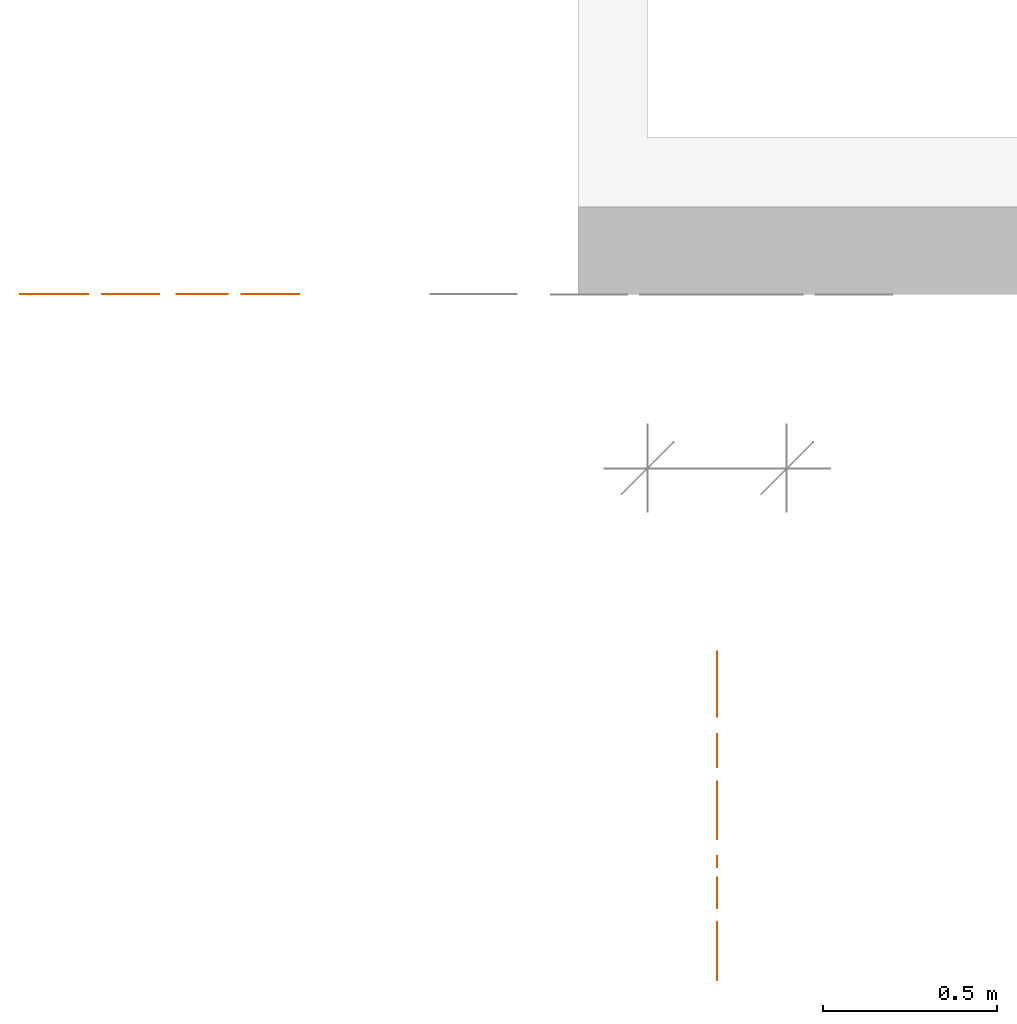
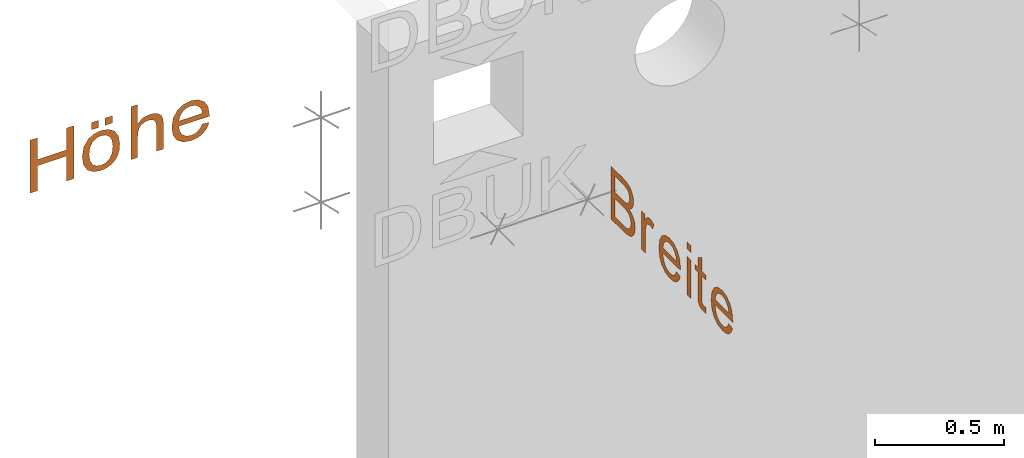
# One storey, part 3 of 3: 2 proxies, 2 elements without a shape of their own.
"""IFC4 building model written with IfcOpenShell, lengths in metres."""

import ifcopenshell
import ifcopenshell.guid

model = None  # the IFC model being written
_history = None  # IfcOwnerHistory: only IFC2X3 demands one
_inside = {}  # id of a spatial element -> (the spatial element, [elements in it])
_under = {}  # id of a project, library or spatial element -> (it, [spatial elements below it])
_declared = {}  # id of a project -> (the project, [libraries it declares])
_typed = {}  # id of a type object -> (the type object, [elements of that type])
_made_of = {}  # id of a material, layer set ... -> (it, [elements and type objects made of it])


def new_model(schema):
    """Start an empty IFC model of exactly this schema.

    Asked for "IFC4X3", IfcOpenShell would pick the latest addendum, in which some entities
    have other attributes; the version numbers below select the first issue.
    IFC2X3 requires an IfcOwnerHistory on every rooted entity: one is made here for all.
    """
    global model, _history
    if schema == "IFC4X3":
        model = ifcopenshell.file(schema_version=(4, 3, 0, 0))
    else:
        model = ifcopenshell.file(schema=schema)
    _inside.clear()
    _under.clear()
    _declared.clear()
    _typed.clear()
    _made_of.clear()
    _history = None
    if model.schema == "IFC2X3":
        org = make("IfcOrganization", Name="unknown")
        user = make(
            "IfcPersonAndOrganization",
            ThePerson=make("IfcPerson", FamilyName="unknown"),
            TheOrganization=org,
        )
        app = make(
            "IfcApplication",
            ApplicationDeveloper=org,
            Version="unknown",
            ApplicationFullName="unknown",
            ApplicationIdentifier="unknown",
        )
        _history = make(
            "IfcOwnerHistory",
            OwningUser=user,
            OwningApplication=app,
            ChangeAction="ADDED",
            CreationDate=0,
        )
    return model


def make(cls, **values):
    """One entity of the class cls with the attributes given. An attribute that is None is left unset."""
    return model.create_entity(
        cls, **{name: value for name, value in values.items() if value is not None}
    )


def entity(cls, *values):
    """Any entity or typed value of the class cls, its attributes in the order of the schema. None: left unset."""
    e = model.create_entity(cls)
    for i, value in enumerate(values):
        if value is not None:
            e[i] = value
    return e


def rooted(cls, **values):
    """An entity with a GlobalId (a new one), such as an element, a storey or a relation."""
    return make(cls, GlobalId=ifcopenshell.guid.new(), OwnerHistory=_history, **values)


def si_unit(unit_type, name, prefix=None):
    """IfcSIUnit, for example si_unit("LENGTHUNIT", "METRE", prefix="MILLI")."""
    return make("IfcSIUnit", UnitType=unit_type, Prefix=prefix, Name=name)


def converted_unit(unit_type, name, factor, base, dimensions=None, offset=None):
    """IfcConversionBasedUnit, such as the inch: factor (a typed value) times the base unit."""
    return make(
        "IfcConversionBasedUnit"
        if offset is None
        else "IfcConversionBasedUnitWithOffset",
        ConversionOffset=offset,
        Dimensions=None
        if dimensions is None
        else entity("IfcDimensionalExponents", *dimensions),
        UnitType=unit_type,
        Name=name,
        ConversionFactor=make(
            "IfcMeasureWithUnit", ValueComponent=factor, UnitComponent=base
        ),
    )


def derived_unit(unit_type, elements):
    """IfcDerivedUnit: a product of units, each with its exponent."""
    return make(
        "IfcDerivedUnit",
        Elements=[
            make("IfcDerivedUnitElement", Unit=unit, Exponent=power)
            for unit, power in elements
        ],
        UnitType=unit_type,
    )


def assignment(units):
    """IfcUnitAssignment: the units of a project."""
    return None if units is None else make("IfcUnitAssignment", Units=units)


def point(xyz):
    """IfcCartesianPoint."""
    return None if xyz is None else make("IfcCartesianPoint", Coordinates=xyz)


def direction(xyz):
    """IfcDirection."""
    return None if xyz is None else make("IfcDirection", DirectionRatios=xyz)


def frame(location, z_axis=None, x_axis=None):
    """IfcAxis2Placement3D, a coordinate frame: its origin and axes. An axis left out is left unset."""
    return make(
        "IfcAxis2Placement3D",
        Location=point(location),
        Axis=direction(z_axis),
        RefDirection=direction(x_axis),
    )


def origin():
    """The frame at (0, 0, 0) with its axes left unset."""
    return frame((0.0, 0.0, 0.0))


def origin_with_axes():
    """The frame at (0, 0, 0) with the z axis (0, 0, 1) and the x axis (1, 0, 0) written out."""
    return frame((0.0, 0.0, 0.0), z_axis=(0.0, 0.0, 1.0), x_axis=(1.0, 0.0, 0.0))


def place(relative_to, where):
    """IfcLocalPlacement: puts the frame where relative to a parent placement (None: the world)."""
    return make(
        "IfcLocalPlacement", PlacementRelTo=relative_to, RelativePlacement=where
    )


def context(
    kind, dimensions, precision=None, world=None, true_north=None, identifier=None
):
    """IfcGeometricRepresentationContext, for example the 3D "Model" context."""
    return make(
        "IfcGeometricRepresentationContext",
        ContextIdentifier=identifier,
        ContextType=kind,
        CoordinateSpaceDimension=dimensions,
        Precision=precision,
        WorldCoordinateSystem=world,
        TrueNorth=true_north,
    )


def subcontext(parent, identifier, kind, view, scale=None):
    """IfcGeometricRepresentationSubContext, for example "Body" below "Model"."""
    return make(
        "IfcGeometricRepresentationSubContext",
        ContextIdentifier=identifier,
        ContextType=kind,
        ParentContext=parent,
        TargetScale=scale,
        TargetView=view,
    )


def project(units=None, contexts=None):
    """IfcProject with its units and contexts."""
    return rooted(
        "IfcProject",
        Name="project",
        RepresentationContexts=contexts,
        UnitsInContext=assignment(units),
    )


def spatial(cls, under=None, at=None, **own):
    """A site, building, storey or space (cls), placed at a placement, below another one or the project."""
    s = rooted(cls, ObjectPlacement=at, **own)
    if under is not None:
        _under.setdefault(under.id(), (under, []))[1].append(s)
    return s


def faces_of(points, faces, orient=None, outer=None):
    """IfcFace entities. A face is a list of loops; a loop is a list of indices into points, from 0.

    orient and outer hold one flag for each loop. By default every Orientation is true, the
    first loop of a face is its IfcFaceOuterBound and the others are IfcFaceBound.
    """
    made = []
    for i, loops in enumerate(faces):
        bounds = []
        for j, loop in enumerate(loops):
            is_outer = j == 0 if outer is None else outer[i][j]
            bounds.append(
                make(
                    "IfcFaceOuterBound" if is_outer else "IfcFaceBound",
                    Bound=make("IfcPolyLoop", Polygon=[points[k] for k in loop]),
                    Orientation=True if orient is None else orient[i][j],
                )
            )
        made.append(make("IfcFace", Bounds=bounds))
    return made


def open_shell(faces, orient=None, outer=None):
    """The faces of one IfcOpenShell. surface_model builds it on its shared points."""
    return ("IfcOpenShell", faces, orient, outer)


def surface_model(cls, points, shells):
    """IfcFaceBasedSurfaceModel or IfcShellBasedSurfaceModel (cls): surfaces that need not close."""
    shared = [point(p) for p in points]
    made = [make(c, CfsFaces=faces_of(shared, fs, o, b)) for c, fs, o, b in shells]
    if cls == "IfcFaceBasedSurfaceModel":
        return make(cls, FbsmFaces=made)
    return make(cls, SbsmBoundary=made)


def shape(context_of_items, identifier, shape_type, items):
    """IfcShapeRepresentation: the items that make up one representation, for example the "Body"."""
    return make(
        "IfcShapeRepresentation",
        ContextOfItems=context_of_items,
        RepresentationIdentifier=identifier,
        RepresentationType=shape_type,
        Items=items,
    )


def source(mapping_origin, context_of_items, identifier, shape_type, items):
    """IfcRepresentationMap: a shape defined once, which mapped items show again and again."""
    return make(
        "IfcRepresentationMap",
        MappingOrigin=mapping_origin,
        MappedRepresentation=shape(context_of_items, identifier, shape_type, items),
    )


def transform(
    local_origin,
    x_axis=None,
    y_axis=None,
    z_axis=None,
    scale=None,
    scale2=None,
    scale3=None,
    uniform=True,
):
    """IfcCartesianTransformationOperator3D, or its non-uniform kind. x_axis, y_axis, z_axis: its Axis1, 2, 3."""
    if uniform:
        return make(
            "IfcCartesianTransformationOperator3D",
            Axis1=direction(x_axis),
            Axis2=direction(y_axis),
            LocalOrigin=point(local_origin),
            Scale=scale,
            Axis3=direction(z_axis),
        )
    return make(
        "IfcCartesianTransformationOperator3DnonUniform",
        Axis1=direction(x_axis),
        Axis2=direction(y_axis),
        LocalOrigin=point(local_origin),
        Scale=scale,
        Axis3=direction(z_axis),
        Scale2=scale2,
        Scale3=scale3,
    )


def mapped(mapping_source, mapping_target):
    """IfcMappedItem: shows the shape of a source again, moved by a transform."""
    return make(
        "IfcMappedItem", MappingSource=mapping_source, MappingTarget=mapping_target
    )


def made_of(thing, what):
    """Note that an element or type object is made of a material, layer set ...; save() writes the relation."""
    if what is not None:
        _made_of.setdefault(what.id(), (what, []))[1].append(thing)
    return thing


def element(
    cls,
    number,
    at=None,
    inside=None,
    cuts=None,
    type_object=None,
    material=None,
    context=None,
    identifier="Body",
    shape_type=None,
    held_by="IfcProductDefinitionShape",
    body=None,
    shapes=None,
    **own,
):
    """One element of the class cls, such as IfcWall. Its Tag is "e" and its number.

    at: its placement. inside: the storey or other place that contains it. cuts: it is an
    opening in that element (IfcRelVoidsElement). A single representation is given by context,
    identifier, shape_type and body (its items); several are given by shapes. held_by: the class
    of the entity that holds the representations. save() writes the other relations.
    """
    e = rooted(cls, Tag="e%d" % number, ObjectPlacement=at, **own)
    if body is not None:
        shapes = [shape(context, identifier, shape_type, body)]
    if shapes is not None:
        e.Representation = make(held_by, Representations=shapes)
    if inside is not None:
        _inside.setdefault(inside.id(), (inside, []))[1].append(e)
    if cuts is not None:
        rooted(
            "IfcRelVoidsElement", RelatingBuildingElement=cuts, RelatedOpeningElement=e
        )
    if type_object is not None:
        _typed.setdefault(type_object.id(), (type_object, []))[1].append(e)
    return made_of(e, material)


def aggregate(whole, parts):
    """IfcRelAggregates: a whole, such as a stair, and the parts it consists of."""
    return rooted("IfcRelAggregates", RelatingObject=whole, RelatedObjects=parts)


def save(model, path):
    """Write the relations noted so far, then the file.

    IfcRelAggregates (storeys below a building ...), IfcRelContainedInSpatialStructure (elements
    in a storey), IfcRelDefinesByType, IfcRelAssociatesMaterial and IfcRelDeclares: one each for
    every whole, place, type object, material and project.
    """
    for whole, parts in _under.values():
        aggregate(whole, parts)
    for where, things in _inside.values():
        rooted(
            "IfcRelContainedInSpatialStructure",
            RelatedElements=things,
            RelatingStructure=where,
        )
    for kind, things in _typed.values():
        rooted("IfcRelDefinesByType", RelatedObjects=things, RelatingType=kind)
    for what, things in _made_of.values():
        rooted("IfcRelAssociatesMaterial", RelatedObjects=things, RelatingMaterial=what)
    for by, libraries in _declared.values():
        rooted("IfcRelDeclares", RelatingContext=by, RelatedDefinitions=libraries)
    model.write(path)


model = new_model("IFC4")

# Units and contexts
model_context = context("Model", 3, precision=1e-05, world=origin())
body_context = subcontext(model_context, "Body", "Model", "MODEL_VIEW")
ifc_project = project(units=[si_unit("LENGTHUNIT", "METRE"), si_unit("AREAUNIT", "SQUARE_METRE"), si_unit("VOLUMEUNIT", "CUBIC_METRE"), si_unit("MASSUNIT", "GRAM", prefix="KILO"), converted_unit("PLANEANGLEUNIT", "DEGREE", entity("IfcPlaneAngleMeasure", 0.0174532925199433), si_unit("PLANEANGLEUNIT", "RADIAN"), dimensions=[0, 0, 0, 0, 0, 0, 0]), derived_unit("THERMALTRANSMITTANCEUNIT", [(si_unit("POWERUNIT", "WATT"), 1), (si_unit("THERMODYNAMICTEMPERATUREUNIT", "KELVIN"), -1), (si_unit("LENGTHUNIT", "METRE"), -2)]), derived_unit("VOLUMETRICFLOWRATEUNIT", [(si_unit("LENGTHUNIT", "METRE"), 3), (converted_unit("TIMEUNIT", "hour", entity("IfcTimeMeasure", 3600.0), si_unit("TIMEUNIT", "SECOND"), dimensions=[0, 0, 1, 0, 0, 0, 0]), -1), (si_unit("LENGTHUNIT", "METRE"), -1)])], contexts=[model_context])

# Site, building, storey
site_placement = place(None, origin())
site = spatial("IfcSite", under=ifc_project, at=site_placement, Name="Liegenschaft", CompositionType="ELEMENT")
building_placement = place(site_placement, origin())
building = spatial("IfcBuilding", under=site, at=building_placement, Name="Gebäude", CompositionType="ELEMENT")
storey_placement = place(building_placement, origin())
storey = spatial("IfcBuildingStorey", under=building, at=storey_placement, Name="Geschoss 01", CompositionType="ELEMENT", Elevation=0.0)

# Assembly, proxy
assembly_1_placement = place(storey_placement, origin())
assembly_1 = element("IfcElementAssembly", 1, at=assembly_1_placement, inside=storey, Name="SpatialDim_Group", PredefinedType="NOTDEFINED")
shared_shape_1 = source(origin_with_axes(), body_context, "Body", "SurfaceModel", [
    surface_model("IfcShellBasedSurfaceModel", [(0.298675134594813, 0.942, 0.0), (0.298675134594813, 0.847, 0.0), (0.299925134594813, 0.82475, 0.0), (0.302675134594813, 0.807, 0.0), (0.307925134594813, 0.792, 0.0), (0.314675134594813, 0.78, 0.0), (0.325175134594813, 0.769375, 0.0), (0.338675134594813, 0.761, 0.0), (0.354300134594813, 0.755625, 0.0), (0.370675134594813, 0.754, 0.0), (0.391050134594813, 0.757, 0.0), (0.407675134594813, 0.766, 0.0), (0.421800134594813, 0.781625, 0.0), (0.430675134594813, 0.801, 0.0), (0.441050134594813, 0.78575, 0.0), (0.453675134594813, 0.775, 0.0), (0.468800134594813, 0.76825, 0.0), (0.484675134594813, 0.766, 0.0), (0.501925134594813, 0.76875, 0.0), (0.517675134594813, 0.776, 0.0), (0.531800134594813, 0.788, 0.0), (0.540675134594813, 0.803, 0.0), (0.546925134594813, 0.823375, 0.0), (0.548675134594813, 0.849, 0.0), (0.548675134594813, 0.942, 0.0), (0.443425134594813, 0.836875, 0.0), (0.442675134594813, 0.855, 0.0), (0.442675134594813, 0.909, 0.0), (0.519675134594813, 0.909, 0.0), (0.519675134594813, 0.859, 0.0), (0.518425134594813, 0.836375, 0.0), (0.515675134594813, 0.822, 0.0), (0.510675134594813, 0.812, 0.0), (0.502675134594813, 0.805, 0.0), (0.492425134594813, 0.8005, 0.0), (0.480675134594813, 0.799, 0.0), (0.468550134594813, 0.8005, 0.0), (0.458675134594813, 0.805, 0.0), (0.450675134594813, 0.813375, 0.0), (0.445675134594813, 0.824, 0.0), (0.327800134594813, 0.83375, 0.0), (0.327675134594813, 0.847, 0.0), (0.327675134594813, 0.909, 0.0), (0.413675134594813, 0.909, 0.0), (0.413675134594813, 0.852, 0.0), (0.412425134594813, 0.8305, 0.0), (0.409675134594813, 0.815, 0.0), (0.403675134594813, 0.803875, 0.0), (0.394675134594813, 0.795, 0.0), (0.383425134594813, 0.789625, 0.0), (0.370675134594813, 0.788, 0.0), (0.359425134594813, 0.789375, 0.0), (0.349675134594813, 0.793, 0.0), (0.341550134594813, 0.799125, 0.0), (0.335675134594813, 0.806, 0.0), (0.331050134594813, 0.814375, 0.0), (0.328675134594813, 0.825, 0.0)], [open_shell([[[0, 1, 2, 3, 4, 5, 6, 7, 8, 9, 10, 11, 12, 13, 14, 15, 16, 17, 18, 19, 20, 21, 22, 23, 24], [25, 26, 27, 28, 29, 30, 31, 32, 33, 34, 35, 36, 37, 38, 39], [40, 41, 42, 43, 44, 45, 46, 47, 48, 49, 50, 51, 52, 53, 54, 55, 56]]], orient=[[False, False, False]])]),
    surface_model("IfcShellBasedSurfaceModel", [(0.298675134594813, 0.706, 0.0), (0.298675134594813, 0.675, 0.0), (0.393675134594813, 0.675, 0.0), (0.412300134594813, 0.673625, 0.0), (0.428675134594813, 0.67, 0.0), (0.438675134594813, 0.665625, 0.0), (0.445675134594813, 0.659, 0.0), (0.450175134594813, 0.65, 0.0), (0.451675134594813, 0.641, 0.0), (0.450175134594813, 0.62975, 0.0), (0.445675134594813, 0.62, 0.0), (0.473675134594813, 0.609, 0.0), (0.481300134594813, 0.624875, 0.0), (0.483675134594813, 0.64, 0.0), (0.482175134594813, 0.65075, 0.0), (0.477675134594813, 0.66, 0.0), (0.468050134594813, 0.6695, 0.0), (0.451675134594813, 0.679, 0.0), (0.479675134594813, 0.679, 0.0), (0.479675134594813, 0.706, 0.0)], [open_shell([[[0, 1, 2, 3, 4, 5, 6, 7, 8, 9, 10, 11, 12, 13, 14, 15, 16, 17, 18, 19]]], orient=[[False]])]),
    surface_model("IfcShellBasedSurfaceModel", [(0.356675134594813, 0.436, 0.0), (0.340050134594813, 0.444875, 0.0), (0.328675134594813, 0.456, 0.0), (0.321925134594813, 0.469375, 0.0), (0.319675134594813, 0.485, 0.0), (0.323925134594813, 0.50675, 0.0), (0.335675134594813, 0.524, 0.0), (0.355300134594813, 0.535875, 0.0), (0.381675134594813, 0.541, 0.0), (0.381675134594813, 0.404, 0.0), (0.386425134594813, 0.404, 0.0), (0.389675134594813, 0.404, 0.0), (0.429425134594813, 0.409875, 0.0), (0.458675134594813, 0.427, 0.0), (0.477550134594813, 0.454, 0.0), (0.483675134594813, 0.487, 0.0), (0.477175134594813, 0.521625, 0.0), (0.458675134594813, 0.548, 0.0), (0.428050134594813, 0.566, 0.0), (0.387675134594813, 0.572, 0.0), (0.347925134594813, 0.566125, 0.0), (0.318675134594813, 0.549, 0.0), (0.300675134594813, 0.52075, 0.0), (0.294675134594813, 0.485, 0.0), (0.298425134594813, 0.455625, 0.0), (0.309675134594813, 0.433, 0.0), (0.328175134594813, 0.415625, 0.0), (0.352675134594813, 0.405, 0.0), (0.426300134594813, 0.43975, 0.0), (0.406675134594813, 0.436, 0.0), (0.406675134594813, 0.54, 0.0), (0.428300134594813, 0.534625, 0.0), (0.444675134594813, 0.524, 0.0), (0.455425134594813, 0.507, 0.0), (0.458675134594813, 0.487, 0.0), (0.454175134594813, 0.46525, 0.0), (0.440675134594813, 0.448, 0.0)], [open_shell([[[0, 1, 2, 3, 4, 5, 6, 7, 8, 9, 10, 11, 12, 13, 14, 15, 16, 17, 18, 19, 20, 21, 22, 23, 24, 25, 26, 27], [28, 29, 30, 31, 32, 33, 34, 35, 36]]], orient=[[False, False]])]),
    surface_model("IfcShellBasedSurfaceModel", [(0.298675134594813, 0.355, 0.0), (0.298675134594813, 0.324, 0.0), (0.479675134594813, 0.324, 0.0), (0.479675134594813, 0.355, 0.0), (0.514675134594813, 0.355, 0.0), (0.514675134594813, 0.324, 0.0), (0.548675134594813, 0.324, 0.0), (0.548675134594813, 0.355, 0.0)], [open_shell([[[0, 1, 2, 3]], [[4, 5, 6, 7]]], orient=[[False], [False]])]),
    surface_model("IfcShellBasedSurfaceModel", [(0.326675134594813, 0.209, 0.0), (0.325800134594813, 0.21675, 0.0), (0.325675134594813, 0.223, 0.0), (0.326300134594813, 0.22875, 0.0), (0.327675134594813, 0.233, 0.0), (0.330675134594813, 0.236625, 0.0), (0.333675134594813, 0.238, 0.0), (0.340300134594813, 0.23975, 0.0), (0.350675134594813, 0.24, 0.0), (0.455675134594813, 0.24, 0.0), (0.455675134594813, 0.209, 0.0), (0.479675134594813, 0.209, 0.0), (0.479675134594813, 0.24, 0.0), (0.542675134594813, 0.24, 0.0), (0.524675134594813, 0.271, 0.0), (0.479675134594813, 0.271, 0.0), (0.479675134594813, 0.294, 0.0), (0.455675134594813, 0.294, 0.0), (0.455675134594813, 0.271, 0.0), (0.351675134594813, 0.271, 0.0), (0.329175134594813, 0.26975, 0.0), (0.315675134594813, 0.267, 0.0), (0.307925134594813, 0.261625, 0.0), (0.301675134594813, 0.254, 0.0), (0.297675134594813, 0.242875, 0.0), (0.296675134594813, 0.228, 0.0), (0.297425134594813, 0.216875, 0.0), (0.299675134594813, 0.205, 0.0)], [open_shell([[[0, 1, 2, 3, 4, 5, 6, 7, 8, 9, 10, 11, 12, 13, 14, 15, 16, 17, 18, 19, 20, 21, 22, 23, 24, 25, 26, 27]]], orient=[[False]])]),
    surface_model("IfcShellBasedSurfaceModel", [(0.356675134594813, 0.032, 0.0), (0.340050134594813, 0.040875, 0.0), (0.328675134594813, 0.052, 0.0), (0.321925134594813, 0.065375, 0.0), (0.319675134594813, 0.081, 0.0), (0.323925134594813, 0.10275, 0.0), (0.335675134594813, 0.12, 0.0), (0.355300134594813, 0.131875, 0.0), (0.381675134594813, 0.137, 0.0), (0.381675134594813, 0.0, 0.0), (0.386425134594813, 0.0, 0.0), (0.389675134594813, 0.0, 0.0), (0.429425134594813, 0.005875, 0.0), (0.458675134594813, 0.023, 0.0), (0.477550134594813, 0.05, 0.0), (0.483675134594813, 0.083, 0.0), (0.477175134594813, 0.117625, 0.0), (0.458675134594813, 0.144, 0.0), (0.428050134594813, 0.162, 0.0), (0.387675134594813, 0.168, 0.0), (0.347925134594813, 0.162125, 0.0), (0.318675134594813, 0.145, 0.0), (0.300675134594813, 0.11675, 0.0), (0.294675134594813, 0.081, 0.0), (0.298425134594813, 0.051625, 0.0), (0.309675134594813, 0.029, 0.0), (0.328175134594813, 0.011625, 0.0), (0.352675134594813, 0.001, 0.0), (0.426300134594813, 0.03575, 0.0), (0.406675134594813, 0.032, 0.0), (0.406675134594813, 0.136, 0.0), (0.428300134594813, 0.130625, 0.0), (0.444675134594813, 0.12, 0.0), (0.455425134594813, 0.103, 0.0), (0.458675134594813, 0.083, 0.0), (0.454175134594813, 0.06125, 0.0), (0.440675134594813, 0.044, 0.0)], [open_shell([[[0, 1, 2, 3, 4, 5, 6, 7, 8, 9, 10, 11, 12, 13, 14, 15, 16, 17, 18, 19, 20, 21, 22, 23, 24, 25, 26, 27], [28, 29, 30, 31, 32, 33, 34, 35, 36]]], orient=[[False, False]])]),
])
proxy_1_placement = place(assembly_1_placement, frame((246.58, -1.968, 2.4), z_axis=(-1.0, 0.0, 1.22464679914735e-16), x_axis=(1.22464679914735e-16, 0.0, 1.0)))
proxy_1 = element("IfcBuildingElementProxy", 2, at=proxy_1_placement, Name="macro", context=body_context, shape_type="MappedRepresentation", body=[
    mapped(shared_shape_1, transform((0.0, 0.0, 0.0), x_axis=(1.0, 0.0, 0.0), y_axis=(0.0, 1.0, 0.0), z_axis=(0.0, 0.0, 1.0), scale=1.0)),
])
aggregate(assembly_1, [proxy_1])

assembly_2_placement = place(storey_placement, origin())
assembly_2 = element("IfcElementAssembly", 3, at=assembly_2_placement, inside=storey, Name="SpatialDim_Group", PredefinedType="NOTDEFINED")
shared_shape_2 = source(origin_with_axes(), body_context, "Body", "SurfaceModel", [
    surface_model("IfcShellBasedSurfaceModel", [(0.298675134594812, 1.301, 0.0), (0.298675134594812, 1.268, 0.0), (0.416675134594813, 1.268, 0.0), (0.416675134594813, 1.138, 0.0), (0.298675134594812, 1.138, 0.0), (0.298675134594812, 1.105, 0.0), (0.548675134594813, 1.105, 0.0), (0.548675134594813, 1.138, 0.0), (0.445675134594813, 1.138, 0.0), (0.445675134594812, 1.268, 0.0), (0.548675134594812, 1.268, 0.0), (0.548675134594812, 1.301, 0.0)], [open_shell([[[0, 1, 2, 3, 4, 5, 6, 7, 8, 9, 10, 11]]], orient=[[False]])]),
    surface_model("IfcShellBasedSurfaceModel", [(0.501675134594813, 0.965, 0.0), (0.501675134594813, 0.933, 0.0), (0.535675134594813, 0.933, 0.0), (0.535675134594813, 0.965, 0.0), (0.501675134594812, 1.027, 0.0), (0.501675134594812, 0.995, 0.0), (0.535675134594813, 0.995, 0.0), (0.535675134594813, 1.027, 0.0), (0.348550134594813, 1.062125, 0.0), (0.318675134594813, 1.045, 0.0), (0.300675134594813, 1.017875, 0.0), (0.294675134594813, 0.984, 0.0), (0.297550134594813, 0.961, 0.0), (0.305675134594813, 0.941, 0.0), (0.319300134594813, 0.922875, 0.0), (0.336675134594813, 0.91, 0.0), (0.360800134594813, 0.902375, 0.0), (0.391675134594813, 0.9, 0.0), (0.430550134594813, 0.905875, 0.0), (0.459675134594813, 0.923, 0.0), (0.477675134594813, 0.9505, 0.0), (0.483675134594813, 0.984, 0.0), (0.478550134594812, 1.014625, 0.0), (0.463675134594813, 1.04, 0.0), (0.433050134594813, 1.061125, 0.0), (0.389675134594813, 1.068, 0.0), (0.359050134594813, 1.03325, 0.0), (0.389675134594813, 1.037, 0.0), (0.419800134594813, 1.03325, 0.0), (0.441675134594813, 1.022, 0.0), (0.454675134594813, 1.004875, 0.0), (0.458675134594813, 0.984, 0.0), (0.454300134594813, 0.96275, 0.0), (0.441675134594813, 0.946, 0.0), (0.419925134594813, 0.93475, 0.0), (0.390675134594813, 0.931, 0.0), (0.359175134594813, 0.93475, 0.0), (0.336675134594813, 0.946, 0.0), (0.323675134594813, 0.963125, 0.0), (0.319675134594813, 0.984, 0.0), (0.324050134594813, 1.00525, 0.0), (0.336675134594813, 1.022, 0.0)], [open_shell([[[0, 1, 2, 3]], [[4, 5, 6, 7]], [[8, 9, 10, 11, 12, 13, 14, 15, 16, 17, 18, 19, 20, 21, 22, 23, 24, 25], [26, 27, 28, 29, 30, 31, 32, 33, 34, 35, 36, 37, 38, 39, 40, 41]]], orient=[[False], [False], [False, False]])]),
    surface_model("IfcShellBasedSurfaceModel", [(0.298675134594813, 0.851, 0.0), (0.298675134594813, 0.82, 0.0), (0.397675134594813, 0.82, 0.0), (0.417300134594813, 0.818625, 0.0), (0.431675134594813, 0.815, 0.0), (0.442675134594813, 0.808, 0.0), (0.450675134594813, 0.798, 0.0), (0.456050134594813, 0.785875, 0.0), (0.457675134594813, 0.773, 0.0), (0.454925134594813, 0.75725, 0.0), (0.447675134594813, 0.746, 0.0), (0.433300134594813, 0.738375, 0.0), (0.413675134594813, 0.736, 0.0), (0.298675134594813, 0.736, 0.0), (0.298675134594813, 0.705, 0.0), (0.413675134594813, 0.705, 0.0), (0.437050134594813, 0.7065, 0.0), (0.453675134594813, 0.711, 0.0), (0.466550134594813, 0.72, 0.0), (0.475675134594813, 0.732, 0.0), (0.481925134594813, 0.748375, 0.0), (0.483675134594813, 0.767, 0.0), (0.477675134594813, 0.7965, 0.0), (0.459675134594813, 0.82, 0.0), (0.548675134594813, 0.82, 0.0), (0.548675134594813, 0.851, 0.0)], [open_shell([[[0, 1, 2, 3, 4, 5, 6, 7, 8, 9, 10, 11, 12, 13, 14, 15, 16, 17, 18, 19, 20, 21, 22, 23, 24, 25]]], orient=[[False]])]),
    surface_model("IfcShellBasedSurfaceModel", [(0.356675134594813, 0.532, 0.0), (0.340050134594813, 0.540875, 0.0), (0.328675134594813, 0.552, 0.0), (0.321925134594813, 0.565375, 0.0), (0.319675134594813, 0.581, 0.0), (0.323925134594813, 0.60275, 0.0), (0.335675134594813, 0.62, 0.0), (0.355300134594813, 0.631875, 0.0), (0.381675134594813, 0.637, 0.0), (0.381675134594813, 0.5, 0.0), (0.386425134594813, 0.5, 0.0), (0.389675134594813, 0.5, 0.0), (0.429425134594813, 0.505875, 0.0), (0.458675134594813, 0.523, 0.0), (0.477550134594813, 0.55, 0.0), (0.483675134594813, 0.583, 0.0), (0.477175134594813, 0.617625, 0.0), (0.458675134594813, 0.644, 0.0), (0.428050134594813, 0.662, 0.0), (0.387675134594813, 0.668, 0.0), (0.347925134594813, 0.662125, 0.0), (0.318675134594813, 0.645, 0.0), (0.300675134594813, 0.61675, 0.0), (0.294675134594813, 0.581, 0.0), (0.298425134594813, 0.551625, 0.0), (0.309675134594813, 0.529, 0.0), (0.328175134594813, 0.511625, 0.0), (0.352675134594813, 0.501, 0.0), (0.426300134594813, 0.53575, 0.0), (0.406675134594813, 0.532, 0.0), (0.406675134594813, 0.636, 0.0), (0.428300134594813, 0.630625, 0.0), (0.444675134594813, 0.62, 0.0), (0.455425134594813, 0.603, 0.0), (0.458675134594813, 0.583, 0.0), (0.454175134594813, 0.56125, 0.0), (0.440675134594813, 0.544, 0.0)], [open_shell([[[0, 1, 2, 3, 4, 5, 6, 7, 8, 9, 10, 11, 12, 13, 14, 15, 16, 17, 18, 19, 20, 21, 22, 23, 24, 25, 26, 27], [28, 29, 30, 31, 32, 33, 34, 35, 36]]], orient=[[False, False]])]),
])
proxy_2_placement = place(assembly_2_placement, frame((245.88, 0.0, 2.6), z_axis=(-1.22464679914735e-16, -1.0, 1.49975978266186e-32), x_axis=(1.22464679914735e-16, 0.0, 1.0)))
proxy_2 = element("IfcBuildingElementProxy", 4, at=proxy_2_placement, Name="macro", context=body_context, shape_type="MappedRepresentation", body=[
    mapped(shared_shape_2, transform((0.0, 0.0, 0.0), x_axis=(1.0, 0.0, 0.0), y_axis=(0.0, 1.0, 0.0), z_axis=(0.0, 0.0, 1.0), scale=1.0)),
])
aggregate(assembly_2, [proxy_2])

save(model, "model.ifc")
